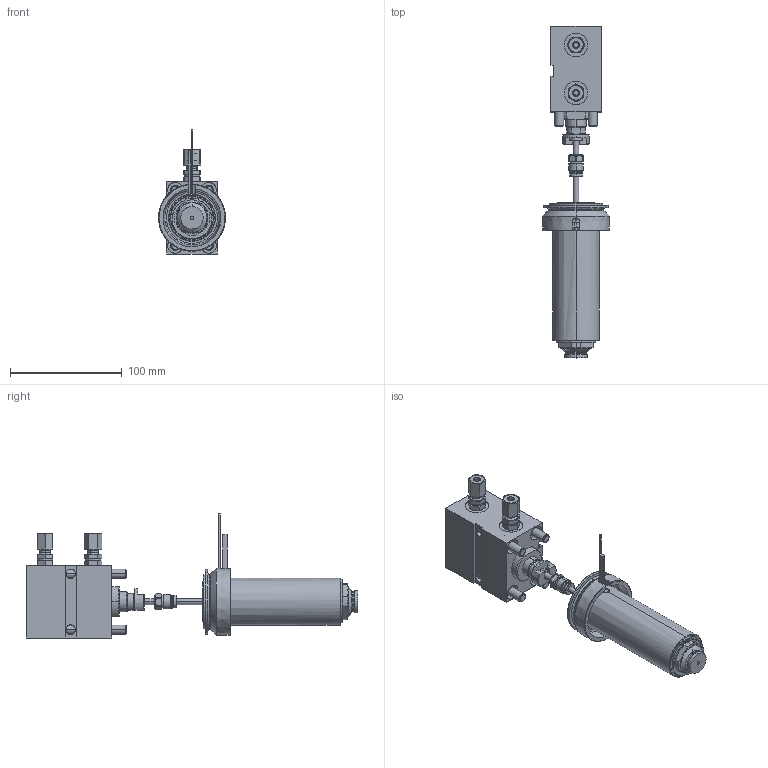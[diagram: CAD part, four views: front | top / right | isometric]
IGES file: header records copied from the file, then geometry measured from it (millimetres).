
Start section: Write IGES format                                    datakit 2008 (c)
Global section: file name: Unknown; native system: DATAKIT Converter; preprocessor: Unknown; author: Unknown; organization: Unknown; date: 950613.180003; units: millimetre
Bounding box: 59.94 x 297.5 x 111.15 mm (x, y, z)
Surface area: 161510.5 mm2 (no closed solid volume)
Topology: 0 solids, 0 shells, 800 faces, 3620 edges, 3602 vertices
Faces by surface type: revolution 516, bspline 284
